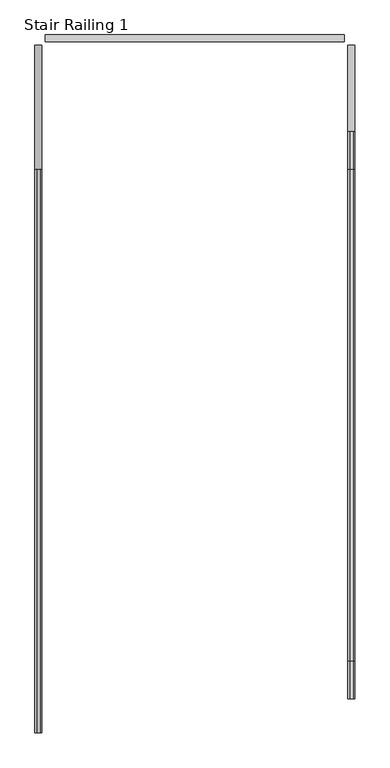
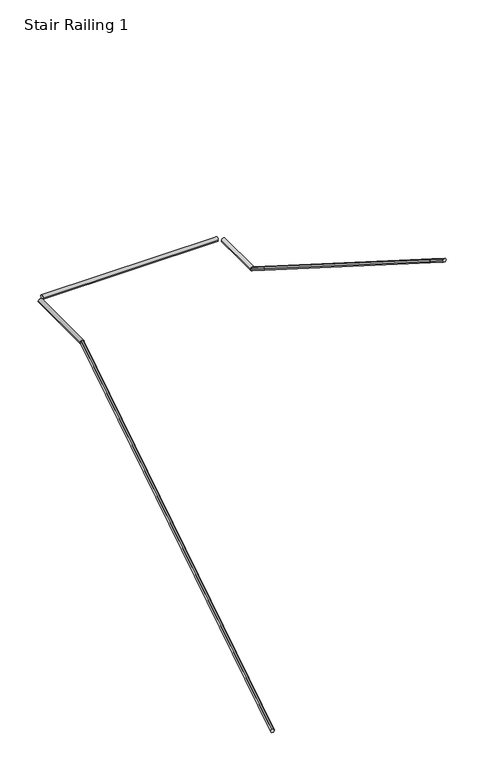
"""IFC4 building model written with IfcOpenShell, lengths in millimetres: railing geometry, Stair Railing 1."""

from ifc_helpers import new_model, si_unit, frame, origin, place, context, project, spatial, circle_curve, faceted_brep, source, transform, mapped, element, save
from ifc_brep_helpers import plane_surface, cylinder_surface, advanced_brep


def stair_railing_1_f20ecf36(model_context):
    return source(origin(), model_context, "Body", "SolidModel", [
        faceted_brep([(-2506.6307976, 56365.9133, 3923.8903226), (-2493.9307976, 56365.9133, 3945.8873678), (-2468.5307976, 56365.9133, 3945.8873678), (-2455.8307976, 56365.9133, 3923.8903226), (-2468.5307976, 56365.9133, 3901.8932773), (-2493.9307976, 56365.9133, 3901.8932773), (-2506.6307976, 52206.1846845, 1269.1806452), (-2493.9307976, 52206.1846845, 1247.1835999), (-2468.5307976, 52206.1846845, 1247.1835999), (-2455.8307976, 52206.1846845, 1269.1806452), (-2468.5307976, 52206.1846845, 1291.1776904), (-2493.9307976, 52206.1846845, 1291.1776904)], [[[0, 1, 2, 3, 4, 5]], [[6, 7, 8, 9, 10, 11]], [[1, 0, 6, 11]], [[2, 1, 11, 10]], [[3, 2, 10, 9]], [[4, 3, 9, 8]], [[5, 4, 8, 7]], [[0, 5, 7, 6]]]),
        advanced_brep(
        [(-2506.6307976, 57280.3133, 3923.8903226), (-2455.8307976, 57280.3133, 3923.8903226), (-2506.6307976, 56365.9133, 3923.8903226), (-2455.8307976, 56365.9133, 3923.8903226)],
        [
            (0, 1, circle_curve(frame((-2481.2307976, 57280.3133, 3923.8903226), z_axis=(0.0, 1.0, 0.0), x_axis=(-0.9999999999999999, 0.0, 0.0)), 25.4)),
            (1, 0, circle_curve(frame((-2481.2307976, 57280.3133, 3923.8903226), z_axis=(0.0, 1.0, 0.0), x_axis=(-0.9999999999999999, 0.0, 0.0)), 25.4)),
            (2, 3, circle_curve(frame((-2481.2307976, 56365.9133, 3923.8903226), z_axis=(0.0, -1.0, 0.0), x_axis=(-0.9999999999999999, 0.0, 0.0)), 25.4)),
            (3, 2, circle_curve(frame((-2481.2307976, 56365.9133, 3923.8903226), z_axis=(0.0, -1.0, 0.0), x_axis=(-0.9999999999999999, 0.0, 0.0)), 25.4)),
            (0, 2),
            (3, 1),
        ],
        [
            plane_surface(frame((-2506.6307976, 57280.3133, 3898.4903226), z_axis=(0.0, 1.0, 0.0), x_axis=(0.0, 0.0, 1.0))),
            plane_surface(frame((-2506.6307976, 56365.9133, 3898.4903226), z_axis=(0.0, -1.0, 0.0), x_axis=(0.0, 0.0, -1.0))),
            cylinder_surface(frame((-2481.2307976, 56365.9133, 3923.8903226), z_axis=(0.0, 0.9999999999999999, 0.0), x_axis=(-0.9999999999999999, 0.0, 0.0)), 25.4),
        ],
        [
            (0, [[1, 2]]),
            (1, [[3, 4]]),
            (2, [[-1, 5, -4, 6]]),
            (2, [[-2, -6, -3, -5]]),
        ],
    ),
        advanced_brep(
        [(-222.5891104, 57356.5133, 3923.8903226), (-222.5891104, 57305.7133, 3923.8903226), (-2430.4307976, 57356.5133, 3923.8903226), (-2430.4307976, 57305.7133, 3923.8903226)],
        [
            (0, 1, circle_curve(frame((-222.5891104, 57331.1133, 3923.8903226), z_axis=(1.0, 0.0, 0.0), x_axis=(0.0, 0.9999999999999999, 0.0)), 25.4)),
            (1, 0, circle_curve(frame((-222.5891104, 57331.1133, 3923.8903226), z_axis=(1.0, 0.0, 0.0), x_axis=(0.0, 0.9999999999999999, 0.0)), 25.4)),
            (2, 3, circle_curve(frame((-2430.4307976, 57331.1133, 3923.8903226), z_axis=(-1.0, 0.0, 0.0), x_axis=(0.0, 0.9999999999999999, 0.0)), 25.4)),
            (3, 2, circle_curve(frame((-2430.4307976, 57331.1133, 3923.8903226), z_axis=(-1.0, 0.0, 0.0), x_axis=(0.0, 0.9999999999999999, 0.0)), 25.4)),
            (0, 2),
            (3, 1),
        ],
        [
            plane_surface(frame((-222.5891104, 57356.5133, 3898.4903226), z_axis=(1.0, 0.0, 0.0), x_axis=(0.0, 1.0, 0.0))),
            plane_surface(frame((-2430.4307976, 57356.5133, 3898.4903226), z_axis=(-1.0, 0.0, 0.0), x_axis=(0.0, -1.0, 0.0))),
            cylinder_surface(frame((-2430.4307976, 57331.1133, 3923.8903226), z_axis=(0.9999999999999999, 0.0, 0.0), x_axis=(0.0, 0.9999999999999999, 0.0)), 25.4),
        ],
        [
            (0, [[1, 2]]),
            (1, [[3, 4]]),
            (2, [[-1, 5, -4, 6]]),
            (2, [[-2, -6, -3, -5]]),
        ],
    ),
        advanced_brep(
        [(-146.3891104, 56645.3133, 3923.8903226), (-197.1891104, 56645.3133, 3923.8903226), (-146.3891104, 57280.3133, 3923.8903226), (-197.1891104, 57280.3133, 3923.8903226)],
        [
            (0, 1, circle_curve(frame((-171.7891104, 56645.3133, 3923.8903226), z_axis=(0.0, -1.0, 0.0), x_axis=(1.0, 0.0, 0.0)), 25.4)),
            (1, 0, circle_curve(frame((-171.7891104, 56645.3133, 3923.8903226), z_axis=(0.0, -1.0, 0.0), x_axis=(1.0, 0.0, 0.0)), 25.4)),
            (2, 3, circle_curve(frame((-171.7891104, 57280.3133, 3923.8903226), z_axis=(0.0, 1.0, 0.0), x_axis=(1.0, 0.0, 0.0)), 25.4)),
            (3, 2, circle_curve(frame((-171.7891104, 57280.3133, 3923.8903226), z_axis=(0.0, 1.0, 0.0), x_axis=(1.0, 0.0, 0.0)), 25.4)),
            (0, 2),
            (3, 1),
        ],
        [
            plane_surface(frame((-146.3891104, 56645.3133, 3898.4903226), z_axis=(0.0, -1.0, 0.0), x_axis=(0.0, 0.0, -1.0))),
            plane_surface(frame((-146.3891104, 57280.3133, 3898.4903226), z_axis=(0.0, 1.0, 0.0), x_axis=(0.0, 0.0, 1.0))),
            cylinder_surface(frame((-171.7891104, 57280.3133, 3923.8903226), z_axis=(0.0, -1.0, 0.0), x_axis=(1.0, 0.0, 0.0)), 25.4),
        ],
        [
            (0, [[1, 2]]),
            (1, [[3, 4]]),
            (2, [[-1, 5, -4, 6]]),
            (2, [[-2, -6, -3, -5]]),
        ],
    ),
        faceted_brep([(-146.3891104, 56365.9133, 4100.8709677), (-159.0891104, 56365.9133, 4122.868013), (-184.4891104, 56365.9133, 4122.868013), (-197.1891104, 56365.9133, 4100.8709677), (-184.4891104, 56365.9133, 4078.8739225), (-159.0891104, 56365.9133, 4078.8739225), (-146.3891104, 56645.3133, 3923.8903226), (-159.0891104, 56645.3133, 3901.8932773), (-184.4891104, 56645.3133, 3901.8932773), (-197.1891104, 56645.3133, 3923.8903226), (-184.4891104, 56645.3133, 3945.8873678), (-159.0891104, 56645.3133, 3945.8873678)], [[[0, 1, 2, 3, 4, 5]], [[6, 7, 8, 9, 10, 11]], [[1, 0, 6, 11]], [[2, 1, 11, 10]], [[3, 2, 10, 9]], [[4, 3, 9, 8]], [[5, 4, 8, 7]], [[0, 5, 7, 6]]]),
        faceted_brep([(-146.3891104, 52733.7133, 6401.6193548), (-159.0891104, 52733.7133, 6423.6164001), (-184.4891104, 52733.7133, 6423.6164001), (-197.1891104, 52733.7133, 6401.6193548), (-184.4891104, 52733.7133, 6379.6223096), (-159.0891104, 52733.7133, 6379.6223096), (-146.3891104, 56365.9133, 4100.8709677), (-159.0891104, 56365.9133, 4078.8739225), (-184.4891104, 56365.9133, 4078.8739225), (-197.1891104, 56365.9133, 4100.8709677), (-184.4891104, 56365.9133, 4122.868013), (-159.0891104, 56365.9133, 4122.868013)], [[[0, 1, 2, 3, 4, 5]], [[6, 7, 8, 9, 10, 11]], [[1, 0, 6, 11]], [[2, 1, 11, 10]], [[3, 2, 10, 9]], [[4, 3, 9, 8]], [[5, 4, 8, 7]], [[0, 5, 7, 6]]]),
        faceted_brep([(-146.3891104, 52454.3133, 6578.6), (-159.0891104, 52454.3133, 6600.5970453), (-184.4891104, 52454.3133, 6600.5970453), (-197.1891104, 52454.3133, 6578.6), (-184.4891104, 52454.3133, 6556.6029547), (-159.0891104, 52454.3133, 6556.6029547), (-146.3891104, 52733.7133, 6401.6193548), (-159.0891104, 52733.7133, 6379.6223096), (-184.4891104, 52733.7133, 6379.6223096), (-197.1891104, 52733.7133, 6401.6193548), (-184.4891104, 52733.7133, 6423.6164001), (-159.0891104, 52733.7133, 6423.6164001)], [[[0, 1, 2, 3, 4, 5]], [[6, 7, 8, 9, 10, 11]], [[1, 0, 6, 11]], [[2, 1, 11, 10]], [[3, 2, 10, 9]], [[4, 3, 9, 8]], [[5, 4, 8, 7]], [[0, 5, 7, 6]]]),
    ])


if __name__ == "__main__":
    model = new_model("IFC4")
    model_context = context("Model", 3, world=origin())
    ifc_project = project(units=[si_unit("LENGTHUNIT", "METRE", prefix="MILLI")], contexts=[model_context])
    site = spatial("IfcSite", under=ifc_project)
    building = spatial("IfcBuilding", under=site)
    placement = place(None, origin())
    stair_railing_1_shape = stair_railing_1_f20ecf36(model_context)
    element("IfcRailing", 1, ObjectType="Stair Railing 1", at=placement, inside=building, context=model_context, shape_type="MappedRepresentation", body=[
        mapped(stair_railing_1_shape, transform((0.0, 0.0, 0.0), x_axis=(1.0, 0.0, 0.0), y_axis=(0.0, 1.0, 0.0), z_axis=(0.0, 0.0, 1.0))),
    ])
    save(model, "model.ifc")
